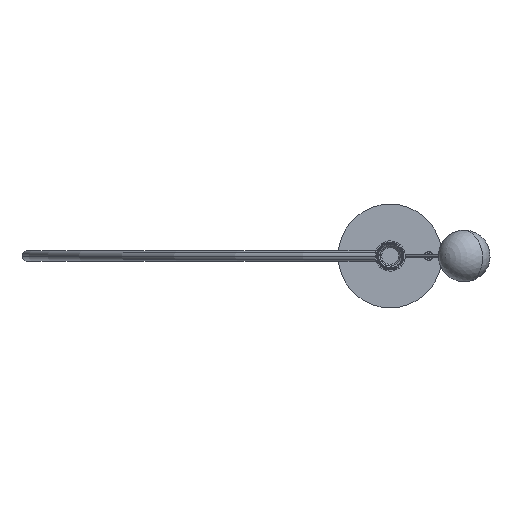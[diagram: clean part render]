
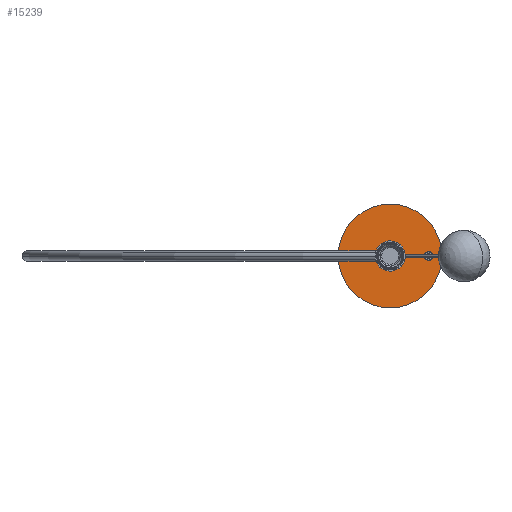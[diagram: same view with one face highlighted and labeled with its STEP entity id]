
A CAD part, front view. The second image highlights one B-rep face of the part: STEP entity #15239.
In plain terms, the highlighted planar face has unit normal (0, -1, 0).
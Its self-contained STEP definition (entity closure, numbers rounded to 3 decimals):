
#414 = CARTESIAN_POINT ( 'NONE',  ( 0., -1., 5.05 ) ) ;
#595 = DIRECTION ( 'NONE',  ( 0., 0., -1. ) ) ;
#662 = CARTESIAN_POINT ( 'NONE',  ( 0., -1., 0. ) ) ;
#771 = DIRECTION ( 'NONE',  ( 0., -1., 0. ) ) ;
#855 = ORIENTED_EDGE ( 'NONE', *, *, #15070, .F. ) ;
#1147 = CARTESIAN_POINT ( 'NONE',  ( 0., -1., 0. ) ) ;
#1201 = EDGE_CURVE ( 'NONE', #13894, #6453, #19199, .T. ) ;
#1221 = DIRECTION ( 'NONE',  ( 0., 0., -1. ) ) ;
#1786 = ORIENTED_EDGE ( 'NONE', *, *, #1201, .F. ) ;
#1792 = EDGE_LOOP ( 'NONE', ( #5631, #18360 ) ) ;
#1816 = CIRCLE ( 'NONE', #16276, 4.7 ) ;
#1939 = VERTEX_POINT ( 'NONE', #9272 ) ;
#2119 = PLANE ( 'NONE',  #10404 ) ;
#2245 = DIRECTION ( 'NONE',  ( 0., 1., 0. ) ) ;
#2361 = AXIS2_PLACEMENT_3D ( 'NONE', #10603, #8912, #3796 ) ;
#2770 = EDGE_LOOP ( 'NONE', ( #1786, #14565 ) ) ;
#3055 = CARTESIAN_POINT ( 'NONE',  ( -44.45, -1., 0. ) ) ;
#3128 = EDGE_CURVE ( 'NONE', #18285, #1939, #1816, .T. ) ;
#3218 = VERTEX_POINT ( 'NONE', #8699 ) ;
#3394 = VERTEX_POINT ( 'NONE', #414 ) ;
#3796 = DIRECTION ( 'NONE',  ( 0., 0., -1. ) ) ;
#3942 = DIRECTION ( 'NONE',  ( 0., -1., 0. ) ) ;
#4191 = CIRCLE ( 'NONE', #2361, 5.05 ) ;
#4721 = CARTESIAN_POINT ( 'NONE',  ( 44.45, -1., -4.7 ) ) ;
#4977 = EDGE_LOOP ( 'NONE', ( #855, #8683 ) ) ;
#5631 = ORIENTED_EDGE ( 'NONE', *, *, #8635, .T. ) ;
#5925 = DIRECTION ( 'NONE',  ( 0., -1., 0. ) ) ;
#6453 = VERTEX_POINT ( 'NONE', #9988 ) ;
#7344 = FACE_BOUND ( 'NONE', #12817, .T. ) ;
#7423 = AXIS2_PLACEMENT_3D ( 'NONE', #7492, #12822, #9311 ) ;
#7492 = CARTESIAN_POINT ( 'NONE',  ( 44.45, -1., 0. ) ) ;
#7708 = CIRCLE ( 'NONE', #9890, 5.05 ) ;
#8410 = DIRECTION ( 'NONE',  ( 0., 1., 0. ) ) ;
#8635 = EDGE_CURVE ( 'NONE', #3394, #20086, #7708, .T. ) ;
#8683 = ORIENTED_EDGE ( 'NONE', *, *, #12452, .F. ) ;
#8699 = CARTESIAN_POINT ( 'NONE',  ( -44.45, -1., 4.7 ) ) ;
#8912 = DIRECTION ( 'NONE',  ( 0., 1., 0. ) ) ;
#9272 = CARTESIAN_POINT ( 'NONE',  ( 44.45, -1., 4.7 ) ) ;
#9311 = DIRECTION ( 'NONE',  ( 0., 0., -1. ) ) ;
#9890 = AXIS2_PLACEMENT_3D ( 'NONE', #662, #2245, #12470 ) ;
#9988 = CARTESIAN_POINT ( 'NONE',  ( 0., -1., -60. ) ) ;
#10404 = AXIS2_PLACEMENT_3D ( 'NONE', #21054, #3942, #13915 ) ;
#10603 = CARTESIAN_POINT ( 'NONE',  ( 0., -1., 0. ) ) ;
#10706 = CARTESIAN_POINT ( 'NONE',  ( -44.45, -1., 0. ) ) ;
#11788 = CIRCLE ( 'NONE', #7423, 4.7 ) ;
#12238 = ORIENTED_EDGE ( 'NONE', *, *, #16875, .F. ) ;
#12452 = EDGE_CURVE ( 'NONE', #3218, #13992, #14320, .T. ) ;
#12454 = FACE_OUTER_BOUND ( 'NONE', #2770, .T. ) ;
#12470 = DIRECTION ( 'NONE',  ( 0., 0., -1. ) ) ;
#12531 = CIRCLE ( 'NONE', #13232, 60. ) ;
#12534 = DIRECTION ( 'NONE',  ( 0., 1., 0. ) ) ;
#12621 = CARTESIAN_POINT ( 'NONE',  ( -44.45, -1., -4.7 ) ) ;
#12657 = CARTESIAN_POINT ( 'NONE',  ( 0., -1., -5.05 ) ) ;
#12817 = EDGE_LOOP ( 'NONE', ( #16356, #12238 ) ) ;
#12822 = DIRECTION ( 'NONE',  ( 0., -1., 0. ) ) ;
#12932 = CIRCLE ( 'NONE', #15809, 4.7 ) ;
#13093 = EDGE_CURVE ( 'NONE', #20086, #3394, #4191, .T. ) ;
#13144 = EDGE_CURVE ( 'NONE', #6453, #13894, #12531, .T. ) ;
#13232 = AXIS2_PLACEMENT_3D ( 'NONE', #17385, #12534, #17624 ) ;
#13780 = AXIS2_PLACEMENT_3D ( 'NONE', #1147, #8410, #15201 ) ;
#13894 = VERTEX_POINT ( 'NONE', #15995 ) ;
#13915 = DIRECTION ( 'NONE',  ( 0., 0., -1. ) ) ;
#13992 = VERTEX_POINT ( 'NONE', #12621 ) ;
#14320 = CIRCLE ( 'NONE', #19013, 4.7 ) ;
#14565 = ORIENTED_EDGE ( 'NONE', *, *, #13144, .F. ) ;
#15070 = EDGE_CURVE ( 'NONE', #13992, #3218, #12932, .T. ) ;
#15201 = DIRECTION ( 'NONE',  ( 0., 0., -1. ) ) ;
#15239 = ADVANCED_FACE ( 'NONE', ( #7344, #15623, #22436, #12454 ), #2119, .T. ) ;
#15623 = FACE_BOUND ( 'NONE', #4977, .T. ) ;
#15809 = AXIS2_PLACEMENT_3D ( 'NONE', #10706, #5925, #595 ) ;
#15995 = CARTESIAN_POINT ( 'NONE',  ( 0., -1., 60. ) ) ;
#16276 = AXIS2_PLACEMENT_3D ( 'NONE', #21634, #771, #1221 ) ;
#16356 = ORIENTED_EDGE ( 'NONE', *, *, #3128, .F. ) ;
#16875 = EDGE_CURVE ( 'NONE', #1939, #18285, #11788, .T. ) ;
#17101 = DIRECTION ( 'NONE',  ( 0., 0., -1. ) ) ;
#17385 = CARTESIAN_POINT ( 'NONE',  ( 0., -1., 0. ) ) ;
#17624 = DIRECTION ( 'NONE',  ( 0., 0., -1. ) ) ;
#18285 = VERTEX_POINT ( 'NONE', #4721 ) ;
#18360 = ORIENTED_EDGE ( 'NONE', *, *, #13093, .T. ) ;
#19013 = AXIS2_PLACEMENT_3D ( 'NONE', #3055, #22103, #17101 ) ;
#19199 = CIRCLE ( 'NONE', #13780, 60. ) ;
#20086 = VERTEX_POINT ( 'NONE', #12657 ) ;
#21054 = CARTESIAN_POINT ( 'NONE',  ( 0., -1., 0. ) ) ;
#21634 = CARTESIAN_POINT ( 'NONE',  ( 44.45, -1., 0. ) ) ;
#22103 = DIRECTION ( 'NONE',  ( 0., -1., 0. ) ) ;
#22436 = FACE_BOUND ( 'NONE', #1792, .T. ) ;
